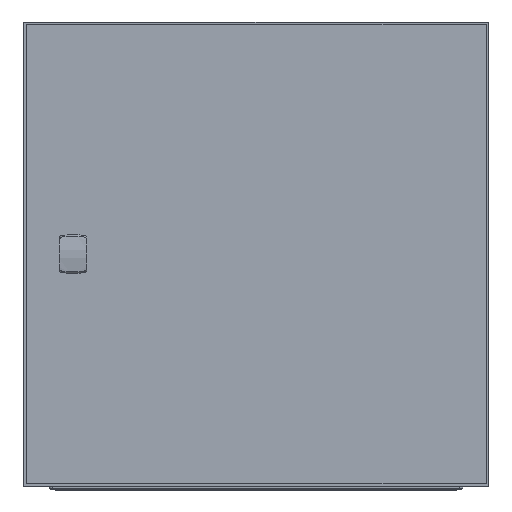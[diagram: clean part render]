
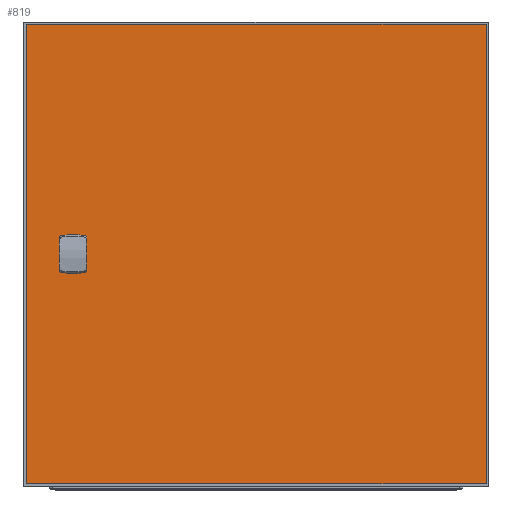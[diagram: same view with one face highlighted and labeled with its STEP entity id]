
A CAD part, top view. The second image highlights one B-rep face of the part: STEP entity #819.
In plain terms, the highlighted planar face has unit normal (0, 0, 1).
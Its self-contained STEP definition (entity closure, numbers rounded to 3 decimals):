
#819 = ADVANCED_FACE( '', ( #1792, #1793 ), #1794, .F. );
#1792 = FACE_BOUND( '', #2988, .T. );
#1793 = FACE_OUTER_BOUND( '', #2989, .T. );
#1794 = PLANE( '', #2990 );
#2988 = EDGE_LOOP( '', ( #4866, #4867, #4868, #4869, #4870, #4871, #4872, #4873, #4874, #4875, #4876, #4877, #4878, #4879, #4880, #4881 ) );
#2989 = EDGE_LOOP( '', ( #4882, #4883, #4884, #4885 ) );
#2990 = AXIS2_PLACEMENT_3D( '', #4886, #4887, #4888 );
#4866 = ORIENTED_EDGE( '', *, *, #7165, .F. );
#4867 = ORIENTED_EDGE( '', *, *, #7166, .F. );
#4868 = ORIENTED_EDGE( '', *, *, #7167, .F. );
#4869 = ORIENTED_EDGE( '', *, *, #7168, .F. );
#4870 = ORIENTED_EDGE( '', *, *, #7169, .F. );
#4871 = ORIENTED_EDGE( '', *, *, #7170, .F. );
#4872 = ORIENTED_EDGE( '', *, *, #6606, .F. );
#4873 = ORIENTED_EDGE( '', *, *, #6662, .F. );
#4874 = ORIENTED_EDGE( '', *, *, #7136, .F. );
#4875 = ORIENTED_EDGE( '', *, *, #7171, .F. );
#4876 = ORIENTED_EDGE( '', *, *, #7172, .F. );
#4877 = ORIENTED_EDGE( '', *, *, #7173, .F. );
#4878 = ORIENTED_EDGE( '', *, *, #6898, .F. );
#4879 = ORIENTED_EDGE( '', *, *, #7174, .F. );
#4880 = ORIENTED_EDGE( '', *, *, #6935, .F. );
#4881 = ORIENTED_EDGE( '', *, *, #7043, .F. );
#4882 = ORIENTED_EDGE( '', *, *, #7092, .T. );
#4883 = ORIENTED_EDGE( '', *, *, #7175, .F. );
#4884 = ORIENTED_EDGE( '', *, *, #6932, .F. );
#4885 = ORIENTED_EDGE( '', *, *, #7176, .T. );
#4886 = CARTESIAN_POINT( '', ( -247.5, 247.5, 0. ) );
#4887 = DIRECTION( '', ( 0., 0., -1. ) );
#4888 = DIRECTION( '', ( -1., 0., 0. ) );
#6606 = EDGE_CURVE( '', #7753, #7754, #7755, .T. );
#6662 = EDGE_CURVE( '', #7852, #7753, #7853, .T. );
#6898 = EDGE_CURVE( '', #8249, #8250, #8251, .T. );
#6932 = EDGE_CURVE( '', #8305, #8307, #8308, .T. );
#6935 = EDGE_CURVE( '', #8311, #8312, #8313, .T. );
#7043 = EDGE_CURVE( '', #8479, #8311, #8480, .T. );
#7092 = EDGE_CURVE( '', #8551, #8555, #8557, .T. );
#7136 = EDGE_CURVE( '', #8620, #7852, #8621, .T. );
#7165 = EDGE_CURVE( '', #8662, #8479, #8663, .T. );
#7166 = EDGE_CURVE( '', #8664, #8662, #8665, .T. );
#7167 = EDGE_CURVE( '', #8666, #8664, #8667, .T. );
#7168 = EDGE_CURVE( '', #8668, #8666, #8669, .T. );
#7169 = EDGE_CURVE( '', #8670, #8668, #8671, .T. );
#7170 = EDGE_CURVE( '', #7754, #8670, #8672, .T. );
#7171 = EDGE_CURVE( '', #8673, #8620, #8674, .T. );
#7172 = EDGE_CURVE( '', #8675, #8673, #8676, .T. );
#7173 = EDGE_CURVE( '', #8250, #8675, #8677, .T. );
#7174 = EDGE_CURVE( '', #8312, #8249, #8678, .T. );
#7175 = EDGE_CURVE( '', #8307, #8555, #8679, .T. );
#7176 = EDGE_CURVE( '', #8305, #8551, #8680, .T. );
#7753 = VERTEX_POINT( '', #9419 );
#7754 = VERTEX_POINT( '', #9420 );
#7755 = LINE( '', #9421, #9422 );
#7852 = VERTEX_POINT( '', #9550 );
#7853 = LINE( '', #9551, #9552 );
#8249 = VERTEX_POINT( '', #10099 );
#8250 = VERTEX_POINT( '', #10100 );
#8251 = LINE( '', #10101, #10102 );
#8305 = VERTEX_POINT( '', #10174 );
#8307 = VERTEX_POINT( '', #10177 );
#8308 = LINE( '', #10178, #10179 );
#8311 = VERTEX_POINT( '', #10183 );
#8312 = VERTEX_POINT( '', #10184 );
#8313 = LINE( '', #10185, #10186 );
#8479 = VERTEX_POINT( '', #10418 );
#8480 = LINE( '', #10419, #10420 );
#8551 = VERTEX_POINT( '', #10518 );
#8555 = VERTEX_POINT( '', #10524 );
#8557 = LINE( '', #10527, #10528 );
#8620 = VERTEX_POINT( '', #10615 );
#8621 = CIRCLE( '', #10616, 11.3 );
#8662 = VERTEX_POINT( '', #10678 );
#8663 = CIRCLE( '', #10679, 11.3 );
#8664 = VERTEX_POINT( '', #10680 );
#8665 = LINE( '', #10681, #10682 );
#8666 = VERTEX_POINT( '', #10683 );
#8667 = CIRCLE( '', #10684, 11.3 );
#8668 = VERTEX_POINT( '', #10685 );
#8669 = LINE( '', #10686, #10687 );
#8670 = VERTEX_POINT( '', #10688 );
#8671 = LINE( '', #10689, #10690 );
#8672 = CIRCLE( '', #10691, 1.25 );
#8673 = VERTEX_POINT( '', #10692 );
#8674 = LINE( '', #10693, #10694 );
#8675 = VERTEX_POINT( '', #10695 );
#8676 = CIRCLE( '', #10696, 11.3 );
#8677 = LINE( '', #10697, #10698 );
#8678 = CIRCLE( '', #10699, 1.25 );
#8679 = LINE( '', #10700, #10701 );
#8680 = LINE( '', #10702, #10703 );
#9419 = CARTESIAN_POINT( '', ( -196.25, 10.15, 0. ) );
#9420 = CARTESIAN_POINT( '', ( -196.25, 10.75, 0. ) );
#9421 = CARTESIAN_POINT( '', ( -196.25, 10.15, 0. ) );
#9422 = VECTOR( '', #11558, 1000. );
#9550 = CARTESIAN_POINT( '', ( -192.533, 10.15, 0. ) );
#9551 = CARTESIAN_POINT( '', ( -192.533, 10.15, 0. ) );
#9552 = VECTOR( '', #11626, 1000. );
#10099 = CARTESIAN_POINT( '', ( -196.25, -10.75, 0. ) );
#10100 = CARTESIAN_POINT( '', ( -196.25, -10.15, 0. ) );
#10101 = CARTESIAN_POINT( '', ( -196.25, -10.75, 0. ) );
#10102 = VECTOR( '', #11924, 1000. );
#10174 = CARTESIAN_POINT( '', ( -247.5, 247.5, 0. ) );
#10177 = CARTESIAN_POINT( '', ( 247.5, 247.5, 0. ) );
#10178 = CARTESIAN_POINT( '', ( -247.5, 247.5, 0. ) );
#10179 = VECTOR( '', #11962, 1000. );
#10183 = CARTESIAN_POINT( '', ( -198.75, -10.15, 0. ) );
#10184 = CARTESIAN_POINT( '', ( -198.75, -10.75, 0. ) );
#10185 = CARTESIAN_POINT( '', ( -198.75, -10.15, 0. ) );
#10186 = VECTOR( '', #11964, 1000. );
#10418 = CARTESIAN_POINT( '', ( -202.467, -10.15, 0. ) );
#10419 = CARTESIAN_POINT( '', ( -202.467, -10.15, 0. ) );
#10420 = VECTOR( '', #12095, 1000. );
#10518 = CARTESIAN_POINT( '', ( -247.5, -247.5, 0. ) );
#10524 = CARTESIAN_POINT( '', ( 247.5, -247.5, 0. ) );
#10527 = CARTESIAN_POINT( '', ( -247.5, -247.5, 0. ) );
#10528 = VECTOR( '', #12153, 1000. );
#10615 = CARTESIAN_POINT( '', ( -187.35, 4.967, 0. ) );
#10616 = AXIS2_PLACEMENT_3D( '', #12208, #12209, #12210 );
#10678 = CARTESIAN_POINT( '', ( -207.65, -4.967, 0. ) );
#10679 = AXIS2_PLACEMENT_3D( '', #12232, #12233, #12234 );
#10680 = CARTESIAN_POINT( '', ( -207.65, 4.967, 0. ) );
#10681 = CARTESIAN_POINT( '', ( -207.65, 4.967, 0. ) );
#10682 = VECTOR( '', #12235, 1000. );
#10683 = CARTESIAN_POINT( '', ( -202.467, 10.15, 0. ) );
#10684 = AXIS2_PLACEMENT_3D( '', #12236, #12237, #12238 );
#10685 = CARTESIAN_POINT( '', ( -198.75, 10.15, 0. ) );
#10686 = CARTESIAN_POINT( '', ( -198.75, 10.15, 0. ) );
#10687 = VECTOR( '', #12239, 1000. );
#10688 = CARTESIAN_POINT( '', ( -198.75, 10.75, 0. ) );
#10689 = CARTESIAN_POINT( '', ( -198.75, 10.75, 0. ) );
#10690 = VECTOR( '', #12240, 1000. );
#10691 = AXIS2_PLACEMENT_3D( '', #12241, #12242, #12243 );
#10692 = CARTESIAN_POINT( '', ( -187.35, -4.967, 0. ) );
#10693 = CARTESIAN_POINT( '', ( -187.35, -4.967, 0. ) );
#10694 = VECTOR( '', #12244, 1000. );
#10695 = CARTESIAN_POINT( '', ( -192.533, -10.15, 0. ) );
#10696 = AXIS2_PLACEMENT_3D( '', #12245, #12246, #12247 );
#10697 = CARTESIAN_POINT( '', ( -196.25, -10.15, 0. ) );
#10698 = VECTOR( '', #12248, 1000. );
#10699 = AXIS2_PLACEMENT_3D( '', #12249, #12250, #12251 );
#10700 = CARTESIAN_POINT( '', ( 247.5, 247.5, 0. ) );
#10701 = VECTOR( '', #12252, 1000. );
#10702 = CARTESIAN_POINT( '', ( -247.5, 247.5, 0. ) );
#10703 = VECTOR( '', #12253, 1000. );
#11558 = DIRECTION( '', ( 0., 1., 0. ) );
#11626 = DIRECTION( '', ( -1., 0., 0. ) );
#11924 = DIRECTION( '', ( 0., 1., 0. ) );
#11962 = DIRECTION( '', ( 1., 0., 0. ) );
#11964 = DIRECTION( '', ( 0., -1., 0. ) );
#12095 = DIRECTION( '', ( 1., 0., 0. ) );
#12153 = DIRECTION( '', ( 1., 0., 0. ) );
#12208 = CARTESIAN_POINT( '', ( -197.5, 0., 0. ) );
#12209 = DIRECTION( '', ( 0., 0., 1. ) );
#12210 = DIRECTION( '', ( 1., 0., 0. ) );
#12232 = CARTESIAN_POINT( '', ( -197.5, 0., 0. ) );
#12233 = DIRECTION( '', ( 0., 0., 1. ) );
#12234 = DIRECTION( '', ( 1., 0., 0. ) );
#12235 = DIRECTION( '', ( 0., -1., 0. ) );
#12236 = CARTESIAN_POINT( '', ( -197.5, 0., 0. ) );
#12237 = DIRECTION( '', ( 0., 0., 1. ) );
#12238 = DIRECTION( '', ( 1., 0., 0. ) );
#12239 = DIRECTION( '', ( -1., 0., 0. ) );
#12240 = DIRECTION( '', ( 0., -1., 0. ) );
#12241 = CARTESIAN_POINT( '', ( -197.5, 10.75, 0. ) );
#12242 = DIRECTION( '', ( 0., 0., 1. ) );
#12243 = DIRECTION( '', ( 1., 0., 0. ) );
#12244 = DIRECTION( '', ( 0., 1., 0. ) );
#12245 = CARTESIAN_POINT( '', ( -197.5, 0., 0. ) );
#12246 = DIRECTION( '', ( 0., 0., 1. ) );
#12247 = DIRECTION( '', ( 1., 0., 0. ) );
#12248 = DIRECTION( '', ( 1., 0., 0. ) );
#12249 = CARTESIAN_POINT( '', ( -197.5, -10.75, 0. ) );
#12250 = DIRECTION( '', ( 0., 0., 1. ) );
#12251 = DIRECTION( '', ( 1., 0., 0. ) );
#12252 = DIRECTION( '', ( 0., -1., 0. ) );
#12253 = DIRECTION( '', ( 0., -1., 0. ) );
